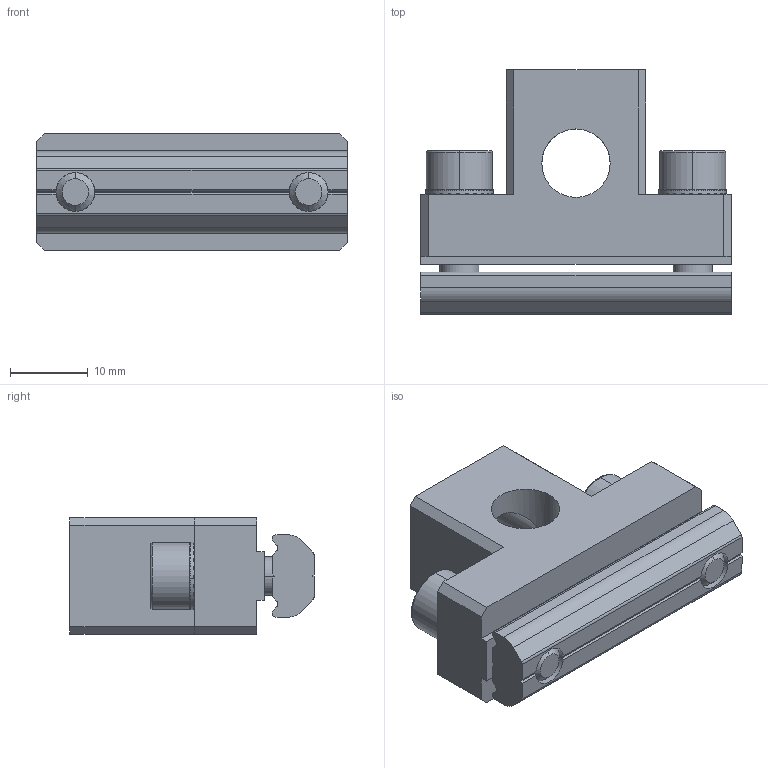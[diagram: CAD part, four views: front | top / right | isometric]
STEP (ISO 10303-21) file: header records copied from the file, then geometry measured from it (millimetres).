
FILE_DESCRIPTION (( 'STEP AP214' ), '1' );
FILE_NAME ('SVA-G18T.STEP', '2023-01-18T01:34:30', ( 'Windows User' ), ( 'P R C' ), 'SwSTEP 2.0', 'SolidWorks 2019', '' );
FILE_SCHEMA (( 'AUTOMOTIVE_DESIGN' ));
Length unit declared in the file: millimetre
Products named in the file (1): SVA-G18T
Bounding box: 40 x 31.4 x 15 mm (x, y, z)
Volume: 10413.7 mm3; surface area: 6475.3 mm2
Topology: 6 solids, 6 shells, 511 faces, 1484 edges, 980 vertices
Faces by surface type: plane 454, cylinder 49, cone 4, bspline 4
Entity records: 22986 total; most frequent: CARTESIAN_POINT 3450, ORIENTED_EDGE 2968, DIRECTION 2912, EDGE_CURVE 1484, LINE 984, VECTOR 984, VERTEX_POINT 980, AXIS2_PLACEMENT_3D 964
